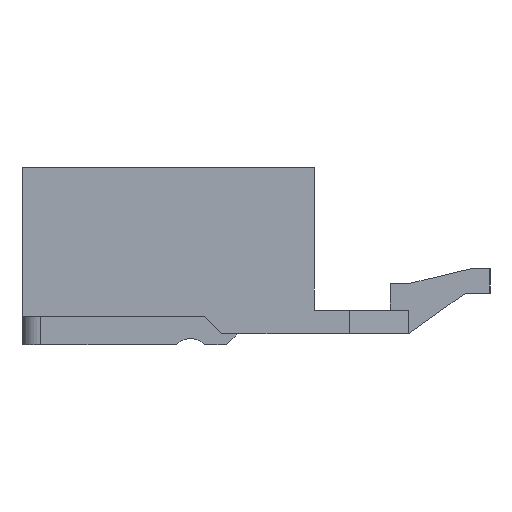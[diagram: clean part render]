
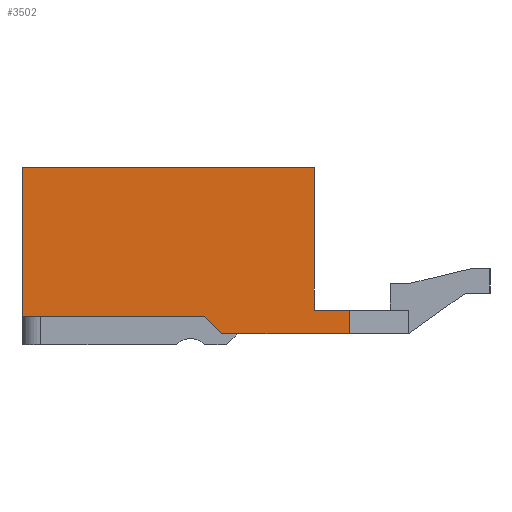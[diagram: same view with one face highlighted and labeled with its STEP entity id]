
A CAD part, left-side view. The second image highlights one B-rep face of the part: STEP entity #3502.
In plain terms, the highlighted planar face has unit normal (-1, 0, 0).
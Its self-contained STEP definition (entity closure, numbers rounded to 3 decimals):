
#137=DIRECTION('',(0.,0.,1.));
#138=VECTOR('',#137,0.965);
#139=CARTESIAN_POINT('',(-24.079,-3.81,-1.524));
#140=LINE('',#139,#138);
#141=DIRECTION('',(0.,1.,0.));
#142=VECTOR('',#141,5.207);
#143=CARTESIAN_POINT('',(-24.079,-3.81,-1.524));
#144=LINE('',#143,#142);
#145=DIRECTION('',(0.,0.707,0.707));
#146=VECTOR('',#145,0.988);
#147=CARTESIAN_POINT('',(-24.079,1.397,-1.524));
#148=LINE('',#147,#146);
#149=DIRECTION('',(0.,0.,1.));
#150=VECTOR('',#149,6.083);
#151=CARTESIAN_POINT('',(-24.079,9.525,-0.826));
#152=LINE('',#151,#150);
#153=DIRECTION('',(0.,-1.,0.));
#154=VECTOR('',#153,1.448);
#155=CARTESIAN_POINT('',(-24.079,-2.362,-0.559));
#156=LINE('',#155,#154);
#536=DIRECTION('',(0.,-1.,0.));
#537=VECTOR('',#536,7.43);
#538=CARTESIAN_POINT('',(-24.079,9.525,-0.826));
#539=LINE('',#538,#537);
#1796=DIRECTION('',(0.,0.,1.));
#1797=VECTOR('',#1796,5.817);
#1798=CARTESIAN_POINT('',(-24.079,-2.362,-0.559));
#1799=LINE('',#1798,#1797);
#1824=DIRECTION('',(0.,-1.,0.));
#1825=VECTOR('',#1824,11.887);
#1826=CARTESIAN_POINT('',(-24.079,9.525,5.258));
#1827=LINE('',#1826,#1825);
#2711=CARTESIAN_POINT('',(-24.079,1.397,-1.524));
#2712=CARTESIAN_POINT('',(-24.079,2.096,-0.826));
#2713=VERTEX_POINT('',#2711);
#2714=VERTEX_POINT('',#2712);
#2724=CARTESIAN_POINT('',(-24.079,9.525,-0.826));
#2726=VERTEX_POINT('',#2724);
#2739=CARTESIAN_POINT('',(-24.079,9.525,5.258));
#2740=CARTESIAN_POINT('',(-24.079,-2.362,5.258));
#2741=VERTEX_POINT('',#2739);
#2742=VERTEX_POINT('',#2740);
#2771=CARTESIAN_POINT('',(-24.079,-2.362,-0.559));
#2773=VERTEX_POINT('',#2771);
#2811=CARTESIAN_POINT('',(-24.079,-3.81,-1.524));
#2812=CARTESIAN_POINT('',(-24.079,-3.81,-0.559));
#2813=VERTEX_POINT('',#2811);
#2814=VERTEX_POINT('',#2812);
#3479=CARTESIAN_POINT('',(-24.079,0.,0.));
#3480=DIRECTION('',(1.,0.,0.));
#3481=DIRECTION('',(0.,0.,-1.));
#3482=AXIS2_PLACEMENT_3D('',#3479,#3480,#3481);
#3483=PLANE('',#3482);
#3485=ORIENTED_EDGE('',*,*,#3484,.F.);
#3487=ORIENTED_EDGE('',*,*,#3486,.T.);
#3489=ORIENTED_EDGE('',*,*,#3488,.T.);
#3491=ORIENTED_EDGE('',*,*,#3490,.F.);
#3493=ORIENTED_EDGE('',*,*,#3492,.T.);
#3495=ORIENTED_EDGE('',*,*,#3494,.T.);
#3497=ORIENTED_EDGE('',*,*,#3496,.F.);
#3499=ORIENTED_EDGE('',*,*,#3498,.T.);
#3500=EDGE_LOOP('',(#3485,#3487,#3489,#3491,#3493,#3495,#3497,#3499));
#3501=FACE_OUTER_BOUND('',#3500,.F.);
#3484=EDGE_CURVE('',#2813,#2814,#140,.T.);
#3486=EDGE_CURVE('',#2813,#2713,#144,.T.);
#3488=EDGE_CURVE('',#2713,#2714,#148,.T.);
#3490=EDGE_CURVE('',#2726,#2714,#539,.T.);
#3492=EDGE_CURVE('',#2726,#2741,#152,.T.);
#3494=EDGE_CURVE('',#2741,#2742,#1827,.T.);
#3496=EDGE_CURVE('',#2773,#2742,#1799,.T.);
#3498=EDGE_CURVE('',#2773,#2814,#156,.T.);
#3502=ADVANCED_FACE('',(#3501),#3483,.F.);
